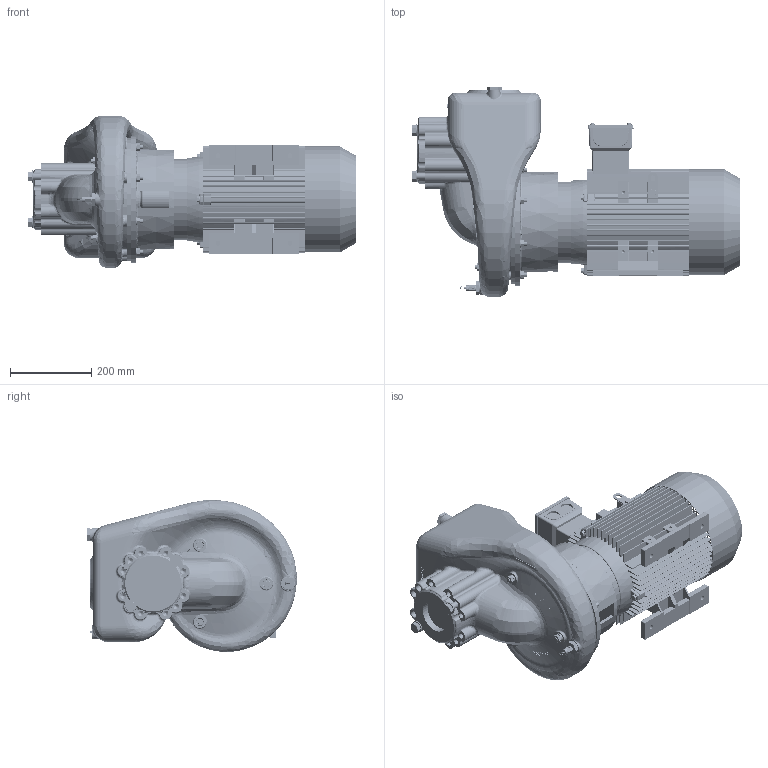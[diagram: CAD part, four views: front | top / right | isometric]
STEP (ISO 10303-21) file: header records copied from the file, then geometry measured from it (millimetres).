
FILE_DESCRIPTION((''),'2;1');
FILE_NAME('NSA80-250B_10-A12_ASM','2019-09-30T',('BRHE'),(''),'PRO/ENGINEER BY PARAMETRIC TECHNOLOGY CORPORATION, 2017170','PRO/ENGINEER BY PARAMETRIC TECHNOLOGY CORPORATION, 2017170','');
FILE_SCHEMA(('CONFIG_CONTROL_DESIGN'));
Products named in the file (36): 591450; 591641; 710405; 591470; 700220; 704003; 704012; 506702; 704032; 706279; 700019; 704390; 704188; 506963; 591530; 514162; 110371; 705392; 700219; 704018; 701239; 704279; 690864_ASM; 591571; 190559; 591860; 702413; 707332; 703204; 717912; 690867_ASM; 509621; 712097_AF1; 842312; 690871_ASM; NSA80-250B_10-A12_ASM
Assembly tree (77 placements, depth 4):
  NSA80-250B_10-A12_ASM
    690871_ASM
      690864_ASM
        591450
        591641
        710405
        591470
        700220  x8
        704003  x8
        704012  x11
        506702
        704032
        706279
        700019
        704390  x2
        704188  x2
        506963
        591530
        514162
        110371
        705392
        700219  x3
        704018  x3
        701239  x2
        704279  x2
      690867_ASM
        591571
        190559
        591860
        702413  x3
        704003  x4
        707332  x4
        703204
        717912  x2
      509621
      712097_AF1
      842312
Bounding box: 810 x 517.52 x 374.48 mm (x, y, z)
Volume: 40108582.6 mm3; surface area: 3058763 mm2
Topology: 75 solids, 138 shells, 6052 faces, 15616 edges, 9870 vertices
Faces by surface type: plane 2810, cylinder 1265, cone 617, bspline 571, extrusion 432, torus 292, sphere 65
Entity records: 221568 total; most frequent: CARTESIAN_POINT 90776, ORIENTED_EDGE 28301, DIRECTION 24212, EDGE_CURVE 14262, VERTEX_POINT 9151, VECTOR 8416, LINE 7984, AXIS2_PLACEMENT_3D 7898
